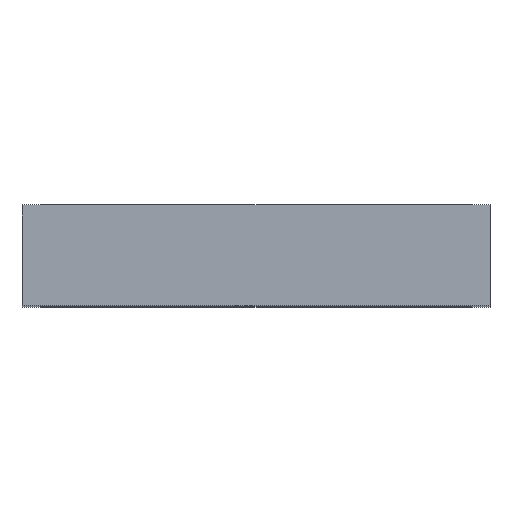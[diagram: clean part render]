
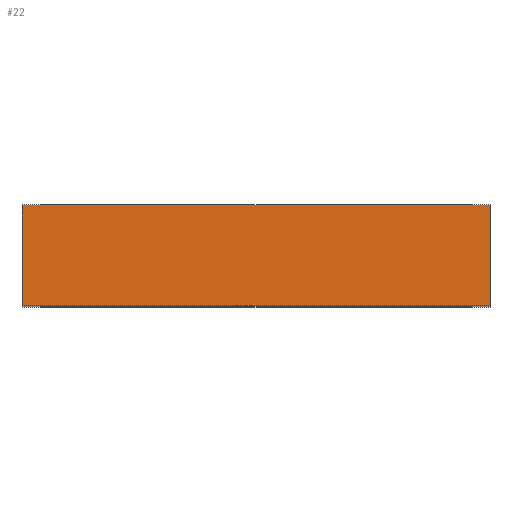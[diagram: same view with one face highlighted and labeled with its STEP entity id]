
A CAD part, top view. The second image highlights one B-rep face of the part: STEP entity #22.
In plain terms, the highlighted planar face has unit normal (0, 0, 1).
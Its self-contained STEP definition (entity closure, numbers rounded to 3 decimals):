
#22 = ADVANCED_FACE ( 'NONE', ( #753 ), #144, .F. ) ;
#50 = VERTEX_POINT ( 'NONE', #204 ) ;
#59 = VERTEX_POINT ( 'NONE', #213 ) ;
#75 = VERTEX_POINT ( 'NONE', #229 ) ;
#77 = VERTEX_POINT ( 'NONE', #231 ) ;
#144 = PLANE ( 'NONE',  #522 ) ;
#155 = CARTESIAN_POINT ( 'NONE',  ( -151., 65., 264.5 ) ) ;
#161 = DIRECTION ( 'NONE',  ( 0., 0., -1. ) ) ;
#162 = DIRECTION ( 'NONE',  ( -1., 0., 0. ) ) ;
#204 = CARTESIAN_POINT ( 'NONE',  ( -151., 65., 264.5 ) ) ;
#213 = CARTESIAN_POINT ( 'NONE',  ( -151., 0., 264.5 ) ) ;
#229 = CARTESIAN_POINT ( 'NONE',  ( 151., 0., 264.5 ) ) ;
#231 = CARTESIAN_POINT ( 'NONE',  ( 151., 65., 264.5 ) ) ;
#336 = CARTESIAN_POINT ( 'NONE',  ( -151., 0., 264.5 ) ) ;
#340 = CARTESIAN_POINT ( 'NONE',  ( -151., 65., 264.5 ) ) ;
#341 = DIRECTION ( 'NONE',  ( 1., 0., 0. ) ) ;
#349 = DIRECTION ( 'NONE',  ( 1., 0., 0. ) ) ;
#360 = CARTESIAN_POINT ( 'NONE',  ( 151., 65., 264.5 ) ) ;
#363 = DIRECTION ( 'NONE',  ( 0., -1., 0. ) ) ;
#370 = CARTESIAN_POINT ( 'NONE',  ( -151., 65., 264.5 ) ) ;
#371 = DIRECTION ( 'NONE',  ( 0., -1., 0. ) ) ;
#472 = EDGE_CURVE ( 'NONE', #50, #77, #854, .T. ) ;
#476 = EDGE_CURVE ( 'NONE', #59, #75, #835, .T. ) ;
#483 = EDGE_CURVE ( 'NONE', #77, #75, #865, .T. ) ;
#487 = EDGE_CURVE ( 'NONE', #50, #59, #881, .T. ) ;
#522 = AXIS2_PLACEMENT_3D ( 'NONE', #155, #161, #162 ) ;
#586 = ORIENTED_EDGE ( 'NONE', *, *, #476, .T. ) ;
#587 = ORIENTED_EDGE ( 'NONE', *, *, #483, .F. ) ;
#588 = ORIENTED_EDGE ( 'NONE', *, *, #472, .F. ) ;
#717 = EDGE_LOOP ( 'NONE', ( #586, #587, #588, #776 ) ) ;
#753 = FACE_OUTER_BOUND ( 'NONE', #717, .T. ) ;
#776 = ORIENTED_EDGE ( 'NONE', *, *, #487, .T. ) ;
#835 = LINE ( 'NONE', #336, #862 ) ;
#854 = LINE ( 'NONE', #340, #855 ) ;
#855 = VECTOR ( 'NONE', #341, 1000. ) ;
#862 = VECTOR ( 'NONE', #349, 1000. ) ;
#865 = LINE ( 'NONE', #360, #874 ) ;
#874 = VECTOR ( 'NONE', #363, 1000. ) ;
#881 = LINE ( 'NONE', #370, #882 ) ;
#882 = VECTOR ( 'NONE', #371, 1000. ) ;
